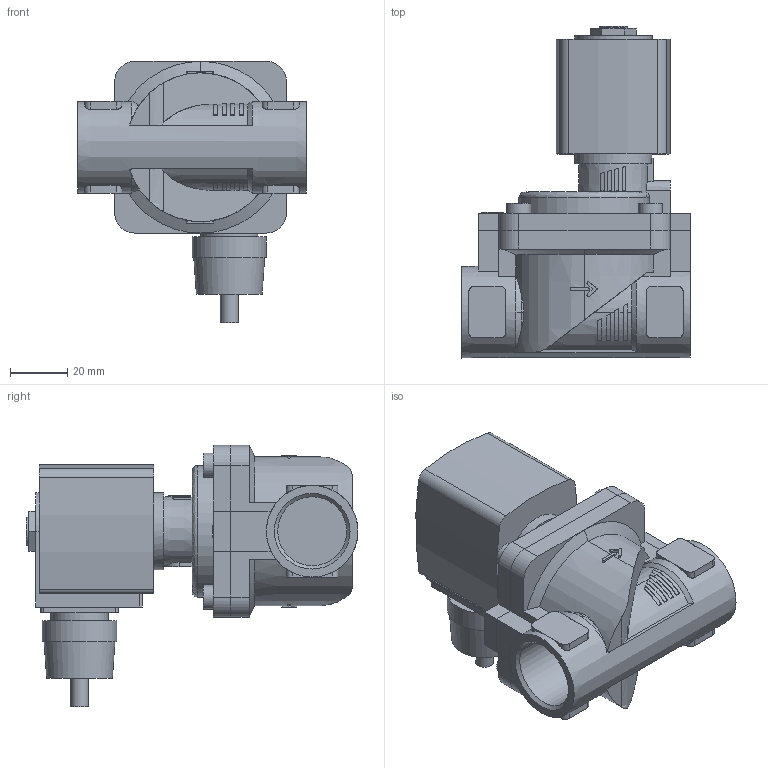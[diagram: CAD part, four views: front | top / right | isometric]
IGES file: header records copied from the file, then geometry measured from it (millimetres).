
Start section: Data from Parasolid IGES Translator 26.0.171, Copyright(c) 2006 Siemens PLM Software. All Rights Reserved.
Global section: file name: 6281-367160-2_2-Way_Solenoid_Valve__Servo-assisted__General_Purpose.igs; native system: By Siemens PLM Incorporated; preprocessor: XPlus GENERIC/IGES 26.0.171; author: Noname; organization: Noname; date: 20240820.214022; units: millimetre
Bounding box: 80 x 116 x 91.3 mm (x, y, z)
Surface area: 46222.4 mm2 (no closed solid volume)
Topology: 0 solids, 0 shells, 320 faces, 1640 edges, 1615 vertices
Faces by surface type: extrusion 190, revolution 130
